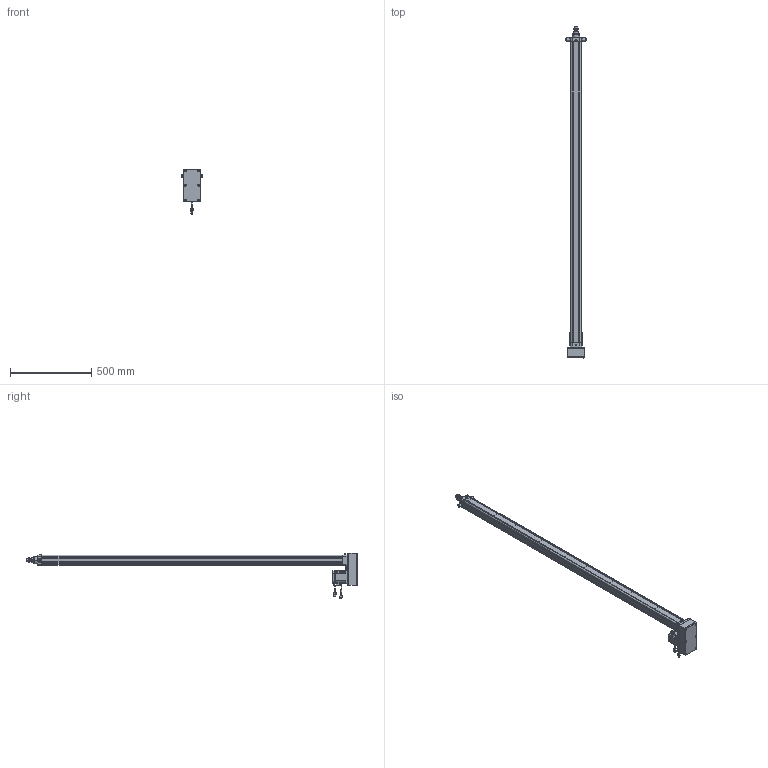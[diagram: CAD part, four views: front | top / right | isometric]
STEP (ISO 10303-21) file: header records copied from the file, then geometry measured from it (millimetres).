
FILE_DESCRIPTION((''),'2;1');
FILE_NAME('HE50-D-100-X1_ASM','2020-05-23T',('ASUS20200'),(''),'CREO PARAMETRIC BY PTC INC, 2014190','CREO PARAMETRIC BY PTC INC, 2014190','');
FILE_SCHEMA(('CONFIG_CONTROL_DESIGN'));
Length unit declared in the file: millimetre
Products named in the file (30): HE50-D-P-001-X1; HE50-D-P-002-X1; HE50-D-P-003-X1; 6301ZZ; LGLM-M8-22; SLM-01; YZ-M6X1; HE50-P-010-X1-400W; _MHMF082L1A2; _CABLE_MOTOR_BOTTOM_05; _CABLE_MOTOR_TOP_05; _MOTOR_CONNECTOR_2; _CABLE_BRAKE_BOTTOM_05; _CABLE_BRAKE_TOP_05; _MHMF_CONNECTOR_9_PIN_A6; MHMF082L1A2M2_1_ASM; TD-6; M6X25; LM-M6X1; JX6X6X20; M6X25-DS; LM-M6-15; HE50-P-012-X1; HE50-P-013-X1; M6X60; HE50-TC; HE50-D-P-005-X1; HE50-D-P-004-X1; HE50-D-P-008-X1; HE50-D-100-X1_ASM
Assembly tree (52 placements, depth 3):
  HE50-D-100-X1_ASM
    HE50-D-P-001-X1
    HE50-D-P-002-X1
    HE50-D-P-003-X1
    6301ZZ
    LGLM-M8-22  x8
    SLM-01
    YZ-M6X1
    HE50-P-010-X1-400W
    MHMF082L1A2M2_1_ASM
      _MHMF082L1A2
      _CABLE_MOTOR_BOTTOM_05
      _CABLE_MOTOR_TOP_05
      _MOTOR_CONNECTOR_2
      _CABLE_BRAKE_BOTTOM_05
      _CABLE_BRAKE_TOP_05
      _MHMF_CONNECTOR_9_PIN_A6
    TD-6  x4
    M6X25  x4
    LM-M6X1  x5
    JX6X6X20
    M6X25-DS
    LM-M6-15
    HE50-P-012-X1
    HE50-P-013-X1
    M6X60  x6
    HE50-TC  x2
    HE50-D-P-005-X1
    HE50-D-P-004-X1
    HE50-D-P-008-X1
Bounding box: 124 x 2048.5 x 283.65 mm (x, y, z)
Volume: 4624181.8 mm3; surface area: 1409959.1 mm2
Topology: 51 solids, 83 shells, 2799 faces, 6744 edges, 4195 vertices
Faces by surface type: plane 1194, cylinder 771, cone 651, torus 138, sphere 42, bspline 3
Entity records: 66762 total; most frequent: CARTESIAN_POINT 12778, DIRECTION 11851, ORIENTED_EDGE 10568, EDGE_CURVE 5344, AXIS2_PLACEMENT_3D 4443, VERTEX_POINT 3361, VECTOR 2965, LINE 2965
